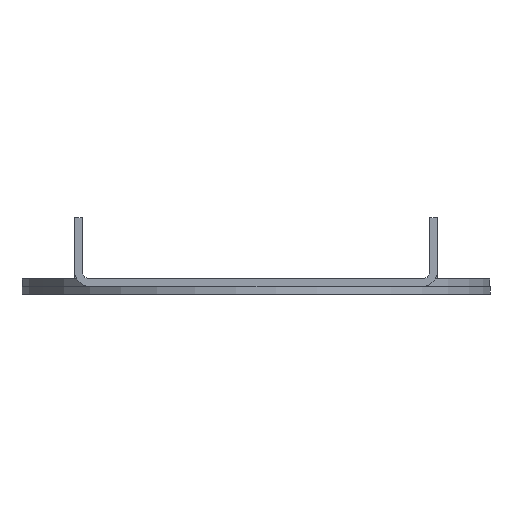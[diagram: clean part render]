
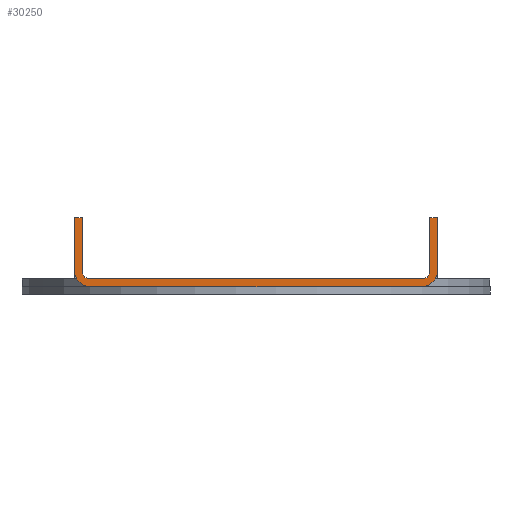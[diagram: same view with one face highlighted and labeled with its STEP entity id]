
A CAD part, left-side view. The second image highlights one B-rep face of the part: STEP entity #30250.
In plain terms, the highlighted planar face has unit normal (-1, 0, 0).
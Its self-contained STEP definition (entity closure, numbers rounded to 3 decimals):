
#28500=CARTESIAN_POINT('',(84.,4.,0.));
#28510=VERTEX_POINT('',#28500);
#28540=CARTESIAN_POINT('',(84.,0.,0.));
#28550=DIRECTION('',(0.,-1.,0.));
#28560=VECTOR('',#28550,1.);
#28570=LINE('',#28540,#28560);
#28580=CARTESIAN_POINT('',(84.,91.,0.));
#28590=VERTEX_POINT('',#28580);
#28600=EDGE_CURVE('',#28590,#28510,#28570,.T.);
#29050=CARTESIAN_POINT('',(84.,93.,2.));
#29060=VERTEX_POINT('',#29050);
#29110=CARTESIAN_POINT('',(84.,93.,35.355));
#29120=DIRECTION('',(0.,0.,-1.));
#29130=VECTOR('',#29120,1.);
#29140=LINE('',#29110,#29130);
#29150=CARTESIAN_POINT('',(84.,93.,16.));
#29160=VERTEX_POINT('',#29150);
#29170=EDGE_CURVE('',#29160,#29060,#29140,.T.);
#29360=CARTESIAN_POINT('',(84.,-91.163,51.837));
#29370=DIRECTION('',(-1.,0.,0.));
#29380=DIRECTION('',(0.,1.,0.));
#29390=AXIS2_PLACEMENT_3D('',#29360,#29370,#29380);
#29400=PLANE('',#29390);
#29410=CARTESIAN_POINT('',(84.,4.,2.));
#29420=DIRECTION('',(-1.,0.,0.));
#29430=DIRECTION('',(0.,0.,-1.));
#29440=AXIS2_PLACEMENT_3D('',#29410,#29420,#29430);
#29450=CIRCLE('',#29440,4.);
#29460=CARTESIAN_POINT('',(84.,4.,-2.));
#29470=VERTEX_POINT('',#29460);
#29480=CARTESIAN_POINT('',(84.,0.,2.));
#29490=VERTEX_POINT('',#29480);
#29500=EDGE_CURVE('',#29470,#29490,#29450,.T.);
#29510=ORIENTED_EDGE('',*,*,#29500,.T.);
#29520=CARTESIAN_POINT('',(84.,0.,-2.));
#29530=DIRECTION('',(0.,1.,0.));
#29540=VECTOR('',#29530,1.);
#29550=LINE('',#29520,#29540);
#29560=CARTESIAN_POINT('',(84.,91.,-2.));
#29570=VERTEX_POINT('',#29560);
#29580=EDGE_CURVE('',#29470,#29570,#29550,.T.);
#29590=ORIENTED_EDGE('',*,*,#29580,.F.);
#29600=CARTESIAN_POINT('',(84.,91.,2.));
#29610=DIRECTION('',(1.,0.,0.));
#29620=DIRECTION('',(0.,0.,-1.));
#29630=AXIS2_PLACEMENT_3D('',#29600,#29610,#29620);
#29640=CIRCLE('',#29630,4.);
#29650=CARTESIAN_POINT('',(84.,95.,2.));
#29660=VERTEX_POINT('',#29650);
#29670=EDGE_CURVE('',#29570,#29660,#29640,.T.);
#29680=ORIENTED_EDGE('',*,*,#29670,.F.);
#29690=CARTESIAN_POINT('',(84.,95.,35.355));
#29700=DIRECTION('',(0.,0.,-1.));
#29710=VECTOR('',#29700,1.);
#29720=LINE('',#29690,#29710);
#29730=CARTESIAN_POINT('',(84.,95.,16.));
#29740=VERTEX_POINT('',#29730);
#29750=EDGE_CURVE('',#29740,#29660,#29720,.T.);
#29760=ORIENTED_EDGE('',*,*,#29750,.T.);
#29770=CARTESIAN_POINT('',(84.,-50.,16.));
#29780=DIRECTION('',(0.,-1.,0.));
#29790=VECTOR('',#29780,1.);
#29800=LINE('',#29770,#29790);
#29810=EDGE_CURVE('',#29740,#29160,#29800,.T.);
#29820=ORIENTED_EDGE('',*,*,#29810,.F.);
#29830=ORIENTED_EDGE('',*,*,#29170,.F.);
#29840=CARTESIAN_POINT('',(84.,91.,2.));
#29850=DIRECTION('',(1.,0.,0.));
#29860=DIRECTION('',(0.,0.,-1.));
#29870=AXIS2_PLACEMENT_3D('',#29840,#29850,#29860);
#29880=CIRCLE('',#29870,2.);
#29890=EDGE_CURVE('',#28590,#29060,#29880,.T.);
#29900=ORIENTED_EDGE('',*,*,#29890,.T.);
#29910=ORIENTED_EDGE('',*,*,#28600,.F.);
#29920=CARTESIAN_POINT('',(84.,4.,2.));
#29930=DIRECTION('',(1.,0.,0.));
#29940=DIRECTION('',(0.,-1.,0.));
#29950=AXIS2_PLACEMENT_3D('',#29920,#29930,#29940);
#29960=CIRCLE('',#29950,2.);
#29970=CARTESIAN_POINT('',(84.,2.,2.));
#29980=VERTEX_POINT('',#29970);
#29990=EDGE_CURVE('',#29980,#28510,#29960,.T.);
#30000=ORIENTED_EDGE('',*,*,#29990,.T.);
#30010=CARTESIAN_POINT('',(84.,2.,0.));
#30020=DIRECTION('',(0.,0.,1.));
#30030=VECTOR('',#30020,1.);
#30040=LINE('',#30010,#30030);
#30050=CARTESIAN_POINT('',(84.,2.,16.));
#30060=VERTEX_POINT('',#30050);
#30070=EDGE_CURVE('',#29980,#30060,#30040,.T.);
#30080=ORIENTED_EDGE('',*,*,#30070,.F.);
#30090=CARTESIAN_POINT('',(84.,0.,16.));
#30100=DIRECTION('',(0.,-1.,0.));
#30110=VECTOR('',#30100,1.);
#30120=LINE('',#30090,#30110);
#30130=CARTESIAN_POINT('',(84.,0.,16.));
#30140=VERTEX_POINT('',#30130);
#30150=EDGE_CURVE('',#30060,#30140,#30120,.T.);
#30160=ORIENTED_EDGE('',*,*,#30150,.F.);
#30170=CARTESIAN_POINT('',(84.,0.,0.));
#30180=DIRECTION('',(0.,0.,-1.));
#30190=VECTOR('',#30180,1.);
#30200=LINE('',#30170,#30190);
#30210=EDGE_CURVE('',#30140,#29490,#30200,.T.);
#30220=ORIENTED_EDGE('',*,*,#30210,.F.);
#30230=EDGE_LOOP('',(#30220,#30160,#30080,#30000,#29910,#29900,#29830,
#29820,#29760,#29680,#29590,#29510));
#30240=FACE_OUTER_BOUND('',#30230,.T.);
#30250=ADVANCED_FACE('',(#30240),#29400,.T.);
